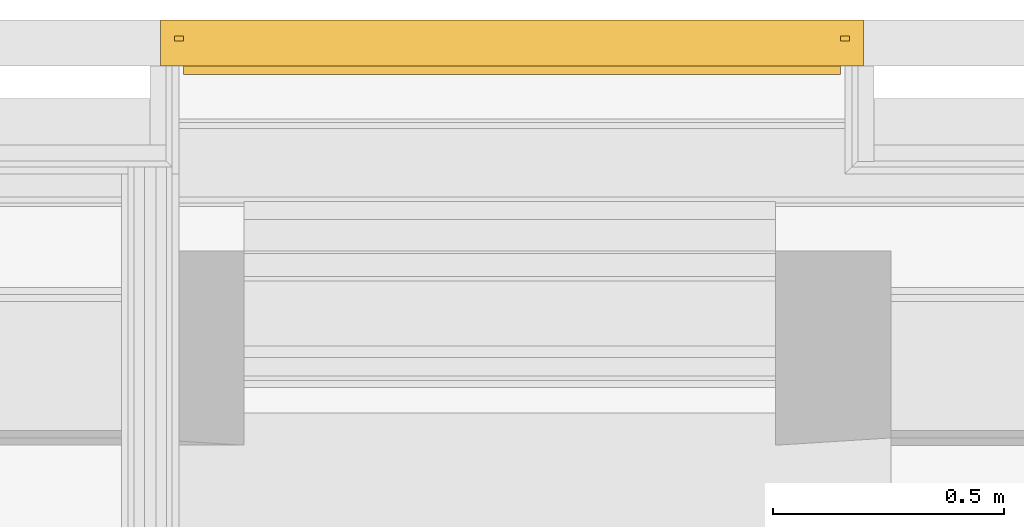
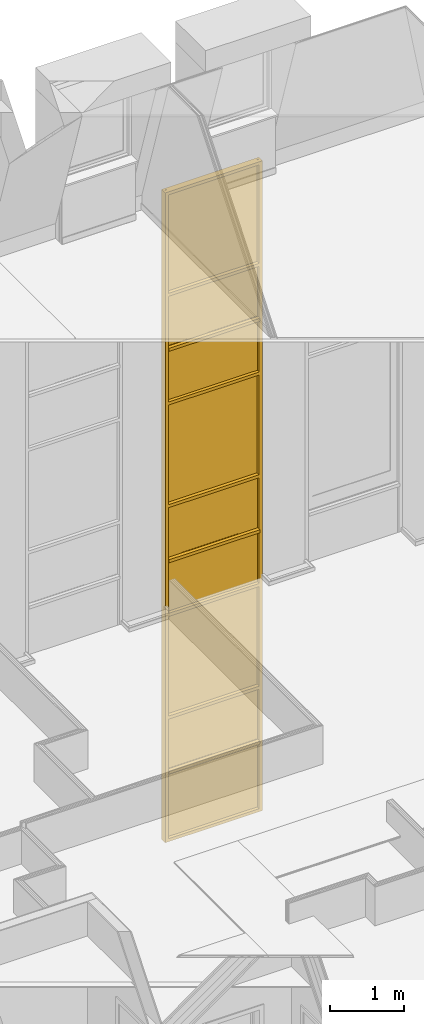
# One storey, part 139 of 169: 1 curtain wall.
"""IFC2X3 building model written with IfcOpenShell, lengths in metres."""

from ifc_helpers import new_model, entity, si_unit, converted_unit, derived_unit, money_unit, direction, frame, origin_with_axes, place, context, subcontext, project, spatial, faceted_brep, material, type_object, element, save


model = new_model("IFC2X3")

# Units and contexts
model_context = context("Model", 3, precision=1e-05, world=origin_with_axes(), true_north=direction((0.0, 1.0)))
body_context = subcontext(model_context, "Body", "Model", "MODEL_VIEW", scale=1.0)
ifc_project = project(units=[si_unit("LENGTHUNIT", "METRE"), si_unit("AREAUNIT", "SQUARE_METRE"), si_unit("VOLUMEUNIT", "CUBIC_METRE"), si_unit("ABSORBEDDOSEUNIT", "GRAY"), si_unit("AMOUNTOFSUBSTANCEUNIT", "MOLE"), si_unit("DOSEEQUIVALENTUNIT", "SIEVERT"), si_unit("ELECTRICCAPACITANCEUNIT", "FARAD"), si_unit("ELECTRICCHARGEUNIT", "COULOMB"), si_unit("ELECTRICCONDUCTANCEUNIT", "SIEMENS"), si_unit("ELECTRICCURRENTUNIT", "AMPERE"), si_unit("ELECTRICRESISTANCEUNIT", "OHM"), si_unit("ELECTRICVOLTAGEUNIT", "VOLT"), si_unit("ENERGYUNIT", "JOULE"), si_unit("FORCEUNIT", "NEWTON"), si_unit("FREQUENCYUNIT", "HERTZ"), si_unit("ILLUMINANCEUNIT", "LUX"), si_unit("INDUCTANCEUNIT", "HENRY"), si_unit("LUMINOUSFLUXUNIT", "LUMEN"), si_unit("LUMINOUSINTENSITYUNIT", "CANDELA"), si_unit("MAGNETICFLUXDENSITYUNIT", "TESLA"), si_unit("MAGNETICFLUXUNIT", "WEBER"), si_unit("MASSUNIT", "GRAM"), converted_unit("PLANEANGLEUNIT", "degree", entity("IfcReal", 0.0174532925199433), si_unit("PLANEANGLEUNIT", "RADIAN"), dimensions=[0, 0, 0, 0, 0, 0, 0]), si_unit("POWERUNIT", "WATT"), si_unit("PRESSUREUNIT", "PASCAL"), si_unit("RADIOACTIVITYUNIT", "BECQUEREL"), si_unit("SOLIDANGLEUNIT", "STERADIAN"), si_unit("THERMODYNAMICTEMPERATUREUNIT", "KELVIN"), si_unit("TIMEUNIT", "SECOND"), derived_unit("ACCELERATIONUNIT", [(si_unit("LENGTHUNIT", "METRE"), 1), (si_unit("TIMEUNIT", "SECOND"), -2)]), derived_unit("ANGULARVELOCITYUNIT", [(converted_unit("PLANEANGLEUNIT", "degree", entity("IfcReal", 0.0174532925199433), si_unit("PLANEANGLEUNIT", "RADIAN"), dimensions=[0, 0, 0, 0, 0, 0, 0]), 1), (si_unit("TIMEUNIT", "SECOND"), -1)]), derived_unit("CURVATUREUNIT", [(converted_unit("PLANEANGLEUNIT", "degree", entity("IfcReal", 0.0174532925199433), si_unit("PLANEANGLEUNIT", "RADIAN"), dimensions=[0, 0, 0, 0, 0, 0, 0]), 1), (si_unit("LENGTHUNIT", "METRE"), -1)]), derived_unit("DYNAMICVISCOSITYUNIT", [(si_unit("PRESSUREUNIT", "PASCAL"), 1), (si_unit("TIMEUNIT", "SECOND"), 1)]), derived_unit("HEATFLUXDENSITYUNIT", [(si_unit("POWERUNIT", "WATT"), 1), (si_unit("LENGTHUNIT", "METRE"), -2)]), derived_unit("HEATINGVALUEUNIT", [(si_unit("ENERGYUNIT", "JOULE"), 1), (si_unit("MASSUNIT", "GRAM"), -1)]), derived_unit("INTEGERCOUNTRATEUNIT", [(si_unit("TIMEUNIT", "SECOND"), -1)]), derived_unit("IONCONCENTRATIONUNIT", [(si_unit("MASSUNIT", "GRAM"), 1), (si_unit("VOLUMEUNIT", "CUBIC_METRE"), -1)]), derived_unit("ISOTHERMALMOISTURECAPACITYUNIT", [(si_unit("VOLUMEUNIT", "CUBIC_METRE"), 1), (si_unit("MASSUNIT", "GRAM"), -1)]), derived_unit("KINEMATICVISCOSITYUNIT", [(si_unit("AREAUNIT", "SQUARE_METRE"), 1), (si_unit("TIMEUNIT", "SECOND"), -1)]), derived_unit("LINEARFORCEUNIT", [(si_unit("FORCEUNIT", "NEWTON"), 1), (si_unit("LENGTHUNIT", "METRE"), -1)]), derived_unit("LINEARMOMENTUNIT", [(si_unit("FORCEUNIT", "NEWTON"), 1), (si_unit("LENGTHUNIT", "METRE"), -1)]), derived_unit("LINEARSTIFFNESSUNIT", [(si_unit("FORCEUNIT", "NEWTON"), 1), (si_unit("LENGTHUNIT", "METRE"), -1)]), derived_unit("LINEARVELOCITYUNIT", [(si_unit("LENGTHUNIT", "METRE"), 1), (si_unit("TIMEUNIT", "SECOND"), -1)]), derived_unit("LUMINOUSINTENSITYDISTRIBUTIONUNIT", [(si_unit("LUMINOUSINTENSITYUNIT", "CANDELA"), 1), (si_unit("LUMINOUSFLUXUNIT", "LUMEN"), -1)]), derived_unit("MASSDENSITYUNIT", [(si_unit("MASSUNIT", "GRAM"), 1), (si_unit("VOLUMEUNIT", "CUBIC_METRE"), -1)]), derived_unit("MASSFLOWRATEUNIT", [(si_unit("MASSUNIT", "GRAM"), 1), (si_unit("TIMEUNIT", "SECOND"), -1)]), derived_unit("MASSPERLENGTHUNIT", [(si_unit("MASSUNIT", "GRAM"), 1), (si_unit("LENGTHUNIT", "METRE"), -1)]), derived_unit("MODULUSOFELASTICITYUNIT", [(si_unit("FORCEUNIT", "NEWTON"), 1), (si_unit("AREAUNIT", "SQUARE_METRE"), -1)]), derived_unit("MODULUSOFLINEARSUBGRADEREACTIONUNIT", [(si_unit("FORCEUNIT", "NEWTON"), 1), (si_unit("LENGTHUNIT", "METRE"), -2)]), derived_unit("MODULUSOFROTATIONALSUBGRADEREACTIONUNIT", [(si_unit("FORCEUNIT", "NEWTON"), 1), (si_unit("LENGTHUNIT", "METRE"), 1)]), derived_unit("MODULUSOFSUBGRADEREACTIONUNIT", [(si_unit("FORCEUNIT", "NEWTON"), 1), (si_unit("VOLUMEUNIT", "CUBIC_METRE"), -1)]), derived_unit("MOISTUREDIFFUSIVITYUNIT", [(si_unit("VOLUMEUNIT", "CUBIC_METRE"), 1), (si_unit("TIMEUNIT", "SECOND"), -1)]), derived_unit("MOLECULARWEIGHTUNIT", [(si_unit("MASSUNIT", "GRAM"), 1), (si_unit("AMOUNTOFSUBSTANCEUNIT", "MOLE"), -1)]), derived_unit("PLANARFORCEUNIT", [(si_unit("FORCEUNIT", "NEWTON"), 1), (si_unit("LENGTHUNIT", "METRE"), -2)]), derived_unit("ROTATIONALFREQUENCYUNIT", [(si_unit("TIMEUNIT", "SECOND"), -1)]), derived_unit("ROTATIONALMASSUNIT", [(si_unit("MASSUNIT", "GRAM"), 1), (si_unit("LENGTHUNIT", "METRE"), 2)]), derived_unit("ROTATIONALSTIFFNESSUNIT", [(si_unit("FORCEUNIT", "NEWTON"), 1), (si_unit("LENGTHUNIT", "METRE"), 1), (converted_unit("PLANEANGLEUNIT", "degree", entity("IfcReal", 0.0174532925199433), si_unit("PLANEANGLEUNIT", "RADIAN"), dimensions=[0, 0, 0, 0, 0, 0, 0]), -1)]), derived_unit("SECTIONAREAINTEGRALUNIT", [(si_unit("LENGTHUNIT", "METRE"), 5)]), derived_unit("SECTIONMODULUSUNIT", [(si_unit("LENGTHUNIT", "METRE"), 3)]), derived_unit("SHEARMODULUSUNIT", [(si_unit("FORCEUNIT", "NEWTON"), 1), (si_unit("AREAUNIT", "SQUARE_METRE"), -1)]), derived_unit("SOUNDPOWERUNIT", [(si_unit("ENERGYUNIT", "JOULE"), 1), (si_unit("TIMEUNIT", "SECOND"), -1)]), derived_unit("SPECIFICHEATCAPACITYUNIT", [(si_unit("FORCEUNIT", "NEWTON"), 1), (si_unit("MASSUNIT", "GRAM"), -1), (si_unit("THERMODYNAMICTEMPERATUREUNIT", "KELVIN"), -1)]), derived_unit("TEMPERATUREGRADIENTUNIT", [(si_unit("THERMODYNAMICTEMPERATUREUNIT", "KELVIN"), 1), (si_unit("LENGTHUNIT", "METRE"), -1)]), derived_unit("THERMALADMITTANCEUNIT", [(si_unit("POWERUNIT", "WATT"), 1), (si_unit("AREAUNIT", "SQUARE_METRE"), -1), (si_unit("THERMODYNAMICTEMPERATUREUNIT", "KELVIN"), -1)]), derived_unit("THERMALCONDUCTANCEUNIT", [(si_unit("POWERUNIT", "WATT"), 1), (si_unit("LENGTHUNIT", "METRE"), -1), (si_unit("THERMODYNAMICTEMPERATUREUNIT", "KELVIN"), -1)]), derived_unit("THERMALEXPANSIONCOEFFICIENTUNIT", [(si_unit("THERMODYNAMICTEMPERATUREUNIT", "KELVIN"), -1)]), derived_unit("THERMALRESISTANCEUNIT", [(si_unit("AREAUNIT", "SQUARE_METRE"), 1), (si_unit("POWERUNIT", "WATT"), -1)]), derived_unit("THERMALTRANSMITTANCEUNIT", [(si_unit("POWERUNIT", "WATT"), 1), (si_unit("AREAUNIT", "SQUARE_METRE"), -1), (si_unit("THERMODYNAMICTEMPERATUREUNIT", "KELVIN"), -1)]), derived_unit("TORQUEUNIT", [(si_unit("FORCEUNIT", "NEWTON"), 1), (si_unit("LENGTHUNIT", "METRE"), 1)]), derived_unit("VAPORPERMEABILITYUNIT", [(si_unit("MASSUNIT", "GRAM"), 1), (si_unit("TIMEUNIT", "SECOND"), -1)]), derived_unit("VOLUMETRICFLOWRATEUNIT", [(si_unit("VOLUMEUNIT", "CUBIC_METRE"), 1), (si_unit("TIMEUNIT", "SECOND"), -1)]), derived_unit("WARPINGCONSTANTUNIT", [(si_unit("LENGTHUNIT", "METRE"), 6)]), derived_unit("WARPINGMOMENTUNIT", [(si_unit("FORCEUNIT", "NEWTON"), 1), (si_unit("LENGTHUNIT", "METRE"), 2)]), money_unit("GBP")], contexts=[model_context])

# Site, building, storey
site_placement = place(None, origin_with_axes())
site = spatial("IfcSite", under=ifc_project, at=site_placement, Name="Site", CompositionType="ELEMENT")
building_placement = place(site_placement, origin_with_axes())
building = spatial("IfcBuilding", under=site, at=building_placement, Name="Building01", CompositionType="ELEMENT")
storey_placement = place(building_placement, frame((0.0, 0.0, 5.15), z_axis=(0.0, 0.0, 1.0), x_axis=(1.0, 0.0, 0.0)))
storey = spatial("IfcBuildingStorey", under=building, at=storey_placement, Name="1F", CompositionType="ELEMENT", Elevation=5.15)

# Curtain wall
ifc_material = material(Name="A-CurtainWall_Frame")
curtain_wall_type = type_object("IfcCurtainWallType", Name="Pattern - Maximum Spacing", PredefinedType="NOTDEFINED")
curtain_wall_placement = place(storey_placement, frame((0.0, 0.0, -5.15), z_axis=(0.0, 0.0, 1.0), x_axis=(1.0, 0.0, 0.0)))
element("IfcCurtainWall", 1, at=curtain_wall_placement, inside=storey, type_object=curtain_wall_type, material=ifc_material, Name="02", ObjectType="Pattern - Maximum Spacing", context=body_context, shape_type="Brep", body=[
    faceted_brep([(24.09, 14.85, 5.118945), (24.09, 14.87, 5.118945), (22.63, 14.87, 5.118945), (22.63, 14.85, 5.118945), (24.09, 14.85, 4.0), (24.09, 14.87, 4.0), (22.63, 14.85, 4.0), (22.63, 14.87, 4.0)], [[[0, 1, 2, 3]], [[4, 5, 1, 0]], [[6, 7, 5, 4]], [[3, 2, 7, 6]], [[1, 5, 7, 2]], [[3, 6, 4, 0]]]),
    faceted_brep([(22.6, 14.9, 3.97), (22.65, 14.9, 3.97), (22.65, 14.865, 3.97), (22.63, 14.865, 3.97), (22.63, 14.855, 3.97), (22.65, 14.855, 3.97), (22.65, 14.8, 3.97), (22.6, 14.8, 3.97), (22.6, 14.8, 5.123945), (22.6, 14.9, 5.123945), (22.65, 14.9, 5.123945), (22.65, 14.865, 5.123945), (22.63, 14.865, 5.123945), (22.63, 14.855, 5.123945), (22.65, 14.855, 5.123945), (22.65, 14.8, 5.123945)], [[[0, 1, 2, 3, 4, 5, 6, 7]], [[7, 8, 9, 0]], [[0, 9, 10, 1]], [[1, 10, 11, 2]], [[2, 11, 12, 3]], [[3, 12, 13, 4]], [[4, 13, 14, 5]], [[5, 14, 15, 6]], [[6, 15, 8, 7]]]),
    faceted_brep([(24.07, 14.9, 4.02), (24.07, 14.865, 4.02), (24.07, 14.865, 4.0), (24.07, 14.855, 4.0), (24.07, 14.855, 4.02), (24.07, 14.8, 4.02), (24.07, 14.8, 3.97), (24.07, 14.9, 3.97), (22.65, 14.9, 3.97), (22.65, 14.9, 4.02), (22.65, 14.865, 4.02), (22.65, 14.865, 4.0), (22.65, 14.855, 4.0), (22.65, 14.855, 4.02), (22.65, 14.8, 4.02), (22.65, 14.8, 3.97)], [[[0, 1, 2, 3, 4, 5, 6, 7]], [[7, 8, 9, 0]], [[0, 9, 10, 1]], [[1, 10, 11, 2]], [[2, 11, 12, 3]], [[3, 12, 13, 4]], [[4, 13, 14, 5]], [[5, 14, 15, 6]], [[6, 15, 8, 7]], [[8, 15, 14, 13, 12, 11, 10, 9]]]),
    faceted_brep([(24.12, 14.9, 3.97), (24.12, 14.9, 5.123945), (24.12, 14.8, 5.123945), (24.12, 14.8, 3.97), (24.07, 14.9, 3.97), (24.07, 14.9, 5.123945), (24.07, 14.865, 3.97), (24.07, 14.865, 5.123945), (24.09, 14.865, 3.97), (24.09, 14.865, 5.123945), (24.09, 14.855, 3.97), (24.09, 14.855, 5.123945), (24.07, 14.855, 3.97), (24.07, 14.855, 5.123945), (24.07, 14.8, 3.97), (24.07, 14.8, 5.123945)], [[[0, 1, 2, 3]], [[4, 5, 1, 0]], [[6, 7, 5, 4]], [[8, 9, 7, 6]], [[10, 11, 9, 8]], [[12, 13, 11, 10]], [[14, 15, 13, 12]], [[3, 2, 15, 14]], [[14, 12, 10, 8, 6, 4, 0, 3]]]),
    faceted_brep([(22.65, 14.8375, 5.128945), (22.65, 14.8475, 5.128945), (22.65, 14.8475, 5.148945), (22.65, 14.8825, 5.148945), (22.65, 14.8825, 5.098945), (22.65, 14.8475, 5.098945), (22.65, 14.8475, 5.118945), (22.65, 14.8375, 5.118945), (22.65, 14.8375, 5.098945), (22.65, 14.7825, 5.098945), (22.65, 14.7825, 5.148945), (22.65, 14.8375, 5.148945), (24.07, 14.8375, 5.148945), (24.07, 14.8375, 5.128945), (24.07, 14.8475, 5.128945), (24.07, 14.8475, 5.148945), (24.07, 14.8825, 5.148945), (24.07, 14.8825, 5.098945), (24.07, 14.8475, 5.098945), (24.07, 14.8375, 5.118945), (24.07, 14.8375, 5.098945), (24.07, 14.8475, 5.118945), (24.07, 14.7825, 5.148945), (24.07, 14.7825, 5.098945)], [[[0, 1, 2, 3, 4, 5, 6, 7, 8, 9, 10, 11]], [[11, 12, 13, 0]], [[0, 13, 14, 1]], [[1, 14, 15, 2]], [[2, 15, 16, 3]], [[3, 16, 17, 4]], [[4, 17, 18, 5]], [[7, 19, 20, 8]], [[6, 21, 19, 7]], [[5, 18, 21, 6]], [[10, 22, 12, 11]], [[9, 23, 22, 10]], [[8, 20, 23, 9]], [[20, 19, 21, 18, 17, 16, 15, 14, 13, 12, 22, 23]]]),
    faceted_brep([(24.09, 14.85, 6.018105), (24.09, 14.87, 6.018105), (22.63, 14.87, 6.018105), (22.63, 14.85, 6.018105), (24.09, 14.85, 5.128945), (24.09, 14.87, 5.128945), (22.63, 14.85, 5.128945), (22.63, 14.87, 5.128945)], [[[0, 1, 2, 3]], [[4, 5, 1, 0]], [[6, 7, 5, 4]], [[3, 2, 7, 6]], [[1, 5, 7, 2]], [[3, 6, 4, 0]]]),
    faceted_brep([(22.65, 14.8, 6.023105), (22.65, 14.8, 5.123945), (22.65, 14.855, 5.123945), (22.65, 14.855, 6.023105), (22.6, 14.8, 6.023105), (22.6, 14.8, 5.123945), (22.6, 14.9, 6.023105), (22.6, 14.9, 5.123945), (22.65, 14.9, 6.023105), (22.65, 14.9, 5.123945), (22.65, 14.865, 6.023105), (22.65, 14.865, 5.123945), (22.63, 14.865, 6.023105), (22.63, 14.865, 5.123945), (22.63, 14.855, 6.023105), (22.63, 14.855, 5.123945)], [[[0, 1, 2, 3]], [[4, 5, 1, 0]], [[6, 7, 5, 4]], [[8, 9, 7, 6]], [[10, 11, 9, 8]], [[12, 13, 11, 10]], [[14, 15, 13, 12]], [[3, 2, 15, 14]]]),
    faceted_brep([(24.12, 14.9, 5.123945), (24.12, 14.9, 6.023105), (24.12, 14.8, 6.023105), (24.12, 14.8, 5.123945), (24.07, 14.9, 5.123945), (24.07, 14.9, 6.023105), (24.07, 14.865, 5.123945), (24.07, 14.865, 6.023105), (24.09, 14.865, 5.123945), (24.09, 14.865, 6.023105), (24.09, 14.855, 5.123945), (24.09, 14.855, 6.023105), (24.07, 14.855, 5.123945), (24.07, 14.855, 6.023105), (24.07, 14.8, 5.123945), (24.07, 14.8, 6.023105)], [[[0, 1, 2, 3]], [[4, 5, 1, 0]], [[6, 7, 5, 4]], [[8, 9, 7, 6]], [[10, 11, 9, 8]], [[12, 13, 11, 10]], [[14, 15, 13, 12]], [[3, 2, 15, 14]]]),
    faceted_brep([(22.65, 14.855, 6.028105), (22.65, 14.865, 6.028105), (22.65, 14.865, 6.048105), (22.65, 14.9, 6.048105), (22.65, 14.9, 5.998105), (22.65, 14.865, 5.998105), (22.65, 14.865, 6.018105), (22.65, 14.855, 6.018105), (22.65, 14.855, 5.998105), (22.65, 14.8, 5.998105), (22.65, 14.8, 6.048105), (22.65, 14.855, 6.048105), (24.07, 14.855, 6.048105), (24.07, 14.855, 6.028105), (24.07, 14.865, 6.028105), (24.07, 14.865, 6.048105), (24.07, 14.9, 6.048105), (24.07, 14.9, 5.998105), (24.07, 14.865, 5.998105), (24.07, 14.855, 6.018105), (24.07, 14.855, 5.998105), (24.07, 14.865, 6.018105), (24.07, 14.8, 6.048105), (24.07, 14.8, 5.998105)], [[[0, 1, 2, 3, 4, 5, 6, 7, 8, 9, 10, 11]], [[11, 12, 13, 0]], [[0, 13, 14, 1]], [[1, 14, 15, 2]], [[2, 15, 16, 3]], [[3, 16, 17, 4]], [[4, 17, 18, 5]], [[7, 19, 20, 8]], [[6, 21, 19, 7]], [[5, 18, 21, 6]], [[10, 22, 12, 11]], [[9, 23, 22, 10]], [[8, 20, 23, 9]], [[20, 19, 21, 18, 17, 16, 15, 14, 13, 12, 22, 23]]]),
    faceted_brep([(24.09, 14.855, 7.716517), (24.09, 14.865, 7.716517), (22.63, 14.865, 7.716517), (22.63, 14.855, 7.716517), (24.09, 14.855, 6.028105), (24.09, 14.865, 6.028105), (22.63, 14.855, 6.028105), (22.63, 14.865, 6.028105)], [[[0, 1, 2, 3]], [[4, 5, 1, 0]], [[6, 7, 5, 4]], [[3, 2, 7, 6]], [[1, 5, 7, 2]], [[3, 6, 4, 0]]]),
    faceted_brep([(22.65, 14.8, 7.721517), (22.65, 14.8, 6.023105), (22.65, 14.855, 6.023105), (22.65, 14.855, 7.721517), (22.6, 14.8, 7.721517), (22.6, 14.8, 6.023105), (22.6, 14.9, 7.721517), (22.6, 14.9, 6.023105), (22.65, 14.9, 7.721517), (22.65, 14.9, 6.023105), (22.65, 14.865, 7.721517), (22.65, 14.865, 6.023105), (22.63, 14.865, 7.721517), (22.63, 14.865, 6.023105), (22.63, 14.855, 7.721517), (22.63, 14.855, 6.023105)], [[[0, 1, 2, 3]], [[4, 5, 1, 0]], [[6, 7, 5, 4]], [[8, 9, 7, 6]], [[10, 11, 9, 8]], [[12, 13, 11, 10]], [[14, 15, 13, 12]], [[3, 2, 15, 14]]]),
    faceted_brep([(24.12, 14.9, 6.023105), (24.12, 14.9, 7.721517), (24.12, 14.8, 7.721517), (24.12, 14.8, 6.023105), (24.07, 14.9, 6.023105), (24.07, 14.9, 7.721517), (24.07, 14.865, 6.023105), (24.07, 14.865, 7.721517), (24.09, 14.865, 6.023105), (24.09, 14.865, 7.721517), (24.09, 14.855, 6.023105), (24.09, 14.855, 7.721517), (24.07, 14.855, 6.023105), (24.07, 14.855, 7.721517), (24.07, 14.8, 6.023105), (24.07, 14.8, 7.721517)], [[[0, 1, 2, 3]], [[4, 5, 1, 0]], [[6, 7, 5, 4]], [[8, 9, 7, 6]], [[10, 11, 9, 8]], [[12, 13, 11, 10]], [[14, 15, 13, 12]], [[3, 2, 15, 14]]]),
    faceted_brep([(22.65, 14.855, 7.726517), (22.65, 14.865, 7.726517), (22.65, 14.865, 7.746517), (22.65, 14.9, 7.746517), (22.65, 14.9, 7.696517), (22.65, 14.865, 7.696517), (22.65, 14.865, 7.716517), (22.65, 14.855, 7.716517), (22.65, 14.855, 7.696517), (22.65, 14.8, 7.696517), (22.65, 14.8, 7.746517), (22.65, 14.855, 7.746517), (24.07, 14.855, 7.746517), (24.07, 14.855, 7.726517), (24.07, 14.865, 7.726517), (24.07, 14.865, 7.746517), (24.07, 14.9, 7.746517), (24.07, 14.9, 7.696517), (24.07, 14.865, 7.696517), (24.07, 14.855, 7.716517), (24.07, 14.855, 7.696517), (24.07, 14.865, 7.716517), (24.07, 14.8, 7.746517), (24.07, 14.8, 7.696517)], [[[0, 1, 2, 3, 4, 5, 6, 7, 8, 9, 10, 11]], [[11, 12, 13, 0]], [[0, 13, 14, 1]], [[1, 14, 15, 2]], [[2, 15, 16, 3]], [[3, 16, 17, 4]], [[4, 17, 18, 5]], [[7, 19, 20, 8]], [[6, 21, 19, 7]], [[5, 18, 21, 6]], [[10, 22, 12, 11]], [[9, 23, 22, 10]], [[8, 20, 23, 9]], [[20, 19, 21, 18, 17, 16, 15, 14, 13, 12, 22, 23]]]),
    faceted_brep([(24.09, 14.85, 8.615677), (24.09, 14.87, 8.615677), (22.63, 14.87, 8.615677), (22.63, 14.85, 8.615677), (24.09, 14.85, 7.726517), (24.09, 14.87, 7.726517), (22.63, 14.85, 7.726517), (22.63, 14.87, 7.726517)], [[[0, 1, 2, 3]], [[4, 5, 1, 0]], [[6, 7, 5, 4]], [[3, 2, 7, 6]], [[1, 5, 7, 2]], [[3, 6, 4, 0]]]),
    faceted_brep([(22.65, 14.8, 8.620677), (22.65, 14.8, 7.721517), (22.65, 14.855, 7.721517), (22.65, 14.855, 8.620677), (22.6, 14.8, 8.620677), (22.6, 14.8, 7.721517), (22.6, 14.9, 8.620677), (22.6, 14.9, 7.721517), (22.65, 14.9, 8.620677), (22.65, 14.9, 7.721517), (22.65, 14.865, 8.620677), (22.65, 14.865, 7.721517), (22.63, 14.865, 8.620677), (22.63, 14.865, 7.721517), (22.63, 14.855, 8.620677), (22.63, 14.855, 7.721517)], [[[0, 1, 2, 3]], [[4, 5, 1, 0]], [[6, 7, 5, 4]], [[8, 9, 7, 6]], [[10, 11, 9, 8]], [[12, 13, 11, 10]], [[14, 15, 13, 12]], [[3, 2, 15, 14]]]),
    faceted_brep([(24.12, 14.9, 7.721517), (24.12, 14.9, 8.620677), (24.12, 14.8, 8.620677), (24.12, 14.8, 7.721517), (24.07, 14.9, 7.721517), (24.07, 14.9, 8.620677), (24.07, 14.865, 7.721517), (24.07, 14.865, 8.620677), (24.09, 14.865, 7.721517), (24.09, 14.865, 8.620677), (24.09, 14.855, 7.721517), (24.09, 14.855, 8.620677), (24.07, 14.855, 7.721517), (24.07, 14.855, 8.620677), (24.07, 14.8, 7.721517), (24.07, 14.8, 8.620677)], [[[0, 1, 2, 3]], [[4, 5, 1, 0]], [[6, 7, 5, 4]], [[8, 9, 7, 6]], [[10, 11, 9, 8]], [[12, 13, 11, 10]], [[14, 15, 13, 12]], [[3, 2, 15, 14]]]),
    faceted_brep([(22.65, 14.8375, 8.625677), (22.65, 14.8475, 8.625677), (22.65, 14.8475, 8.645677), (22.65, 14.8825, 8.645677), (22.65, 14.8825, 8.595677), (22.65, 14.8475, 8.595677), (22.65, 14.8475, 8.615677), (22.65, 14.8375, 8.615677), (22.65, 14.8375, 8.595677), (22.65, 14.7825, 8.595677), (22.65, 14.7825, 8.645677), (22.65, 14.8375, 8.645677), (24.07, 14.8375, 8.645677), (24.07, 14.8375, 8.625677), (24.07, 14.8475, 8.625677), (24.07, 14.8475, 8.645677), (24.07, 14.8825, 8.645677), (24.07, 14.8825, 8.595677), (24.07, 14.8475, 8.595677), (24.07, 14.8375, 8.615677), (24.07, 14.8375, 8.595677), (24.07, 14.8475, 8.615677), (24.07, 14.7825, 8.645677), (24.07, 14.7825, 8.595677)], [[[0, 1, 2, 3, 4, 5, 6, 7, 8, 9, 10, 11]], [[11, 12, 13, 0]], [[0, 13, 14, 1]], [[1, 14, 15, 2]], [[2, 15, 16, 3]], [[3, 16, 17, 4]], [[4, 17, 18, 5]], [[7, 19, 20, 8]], [[6, 21, 19, 7]], [[5, 18, 21, 6]], [[10, 22, 12, 11]], [[9, 23, 22, 10]], [[8, 20, 23, 9]], [[20, 19, 21, 18, 17, 16, 15, 14, 13, 12, 22, 23]]]),
    faceted_brep([(24.09, 14.85, 9.514837), (24.09, 14.87, 9.514837), (22.63, 14.87, 9.514837), (22.63, 14.85, 9.514837), (24.09, 14.85, 8.625677), (24.09, 14.87, 8.625677), (22.63, 14.85, 8.625677), (22.63, 14.87, 8.625677)], [[[0, 1, 2, 3]], [[4, 5, 1, 0]], [[6, 7, 5, 4]], [[3, 2, 7, 6]], [[1, 5, 7, 2]], [[3, 6, 4, 0]]]),
    faceted_brep([(22.65, 14.8, 9.519837), (22.65, 14.8, 8.620677), (22.65, 14.855, 8.620677), (22.65, 14.855, 9.519837), (22.6, 14.8, 9.519837), (22.6, 14.8, 8.620677), (22.6, 14.9, 9.519837), (22.6, 14.9, 8.620677), (22.65, 14.9, 9.519837), (22.65, 14.9, 8.620677), (22.65, 14.865, 9.519837), (22.65, 14.865, 8.620677), (22.63, 14.865, 9.519837), (22.63, 14.865, 8.620677), (22.63, 14.855, 9.519837), (22.63, 14.855, 8.620677)], [[[0, 1, 2, 3]], [[4, 5, 1, 0]], [[6, 7, 5, 4]], [[8, 9, 7, 6]], [[10, 11, 9, 8]], [[12, 13, 11, 10]], [[14, 15, 13, 12]], [[3, 2, 15, 14]]]),
    faceted_brep([(24.12, 14.9, 8.620677), (24.12, 14.9, 9.519837), (24.12, 14.8, 9.519837), (24.12, 14.8, 8.620677), (24.07, 14.9, 8.620677), (24.07, 14.9, 9.519837), (24.07, 14.865, 8.620677), (24.07, 14.865, 9.519837), (24.09, 14.865, 8.620677), (24.09, 14.865, 9.519837), (24.09, 14.855, 8.620677), (24.09, 14.855, 9.519837), (24.07, 14.855, 8.620677), (24.07, 14.855, 9.519837), (24.07, 14.8, 8.620677), (24.07, 14.8, 9.519837)], [[[0, 1, 2, 3]], [[4, 5, 1, 0]], [[6, 7, 5, 4]], [[8, 9, 7, 6]], [[10, 11, 9, 8]], [[12, 13, 11, 10]], [[14, 15, 13, 12]], [[3, 2, 15, 14]]]),
    faceted_brep([(22.65, 14.855, 9.524837), (22.65, 14.865, 9.524837), (22.65, 14.865, 9.544837), (22.65, 14.9, 9.544837), (22.65, 14.9, 9.494837), (22.65, 14.865, 9.494837), (22.65, 14.865, 9.514837), (22.65, 14.855, 9.514837), (22.65, 14.855, 9.494837), (22.65, 14.8, 9.494837), (22.65, 14.8, 9.544837), (22.65, 14.855, 9.544837), (24.07, 14.855, 9.544837), (24.07, 14.855, 9.524837), (24.07, 14.865, 9.524837), (24.07, 14.865, 9.544837), (24.07, 14.9, 9.544837), (24.07, 14.9, 9.494837), (24.07, 14.865, 9.494837), (24.07, 14.855, 9.514837), (24.07, 14.855, 9.494837), (24.07, 14.865, 9.514837), (24.07, 14.8, 9.544837), (24.07, 14.8, 9.494837)], [[[0, 1, 2, 3, 4, 5, 6, 7, 8, 9, 10, 11]], [[11, 12, 13, 0]], [[0, 13, 14, 1]], [[1, 14, 15, 2]], [[2, 15, 16, 3]], [[3, 16, 17, 4]], [[4, 17, 18, 5]], [[7, 19, 20, 8]], [[6, 21, 19, 7]], [[5, 18, 21, 6]], [[10, 22, 12, 11]], [[9, 23, 22, 10]], [[8, 20, 23, 9]], [[20, 19, 21, 18, 17, 16, 15, 14, 13, 12, 22, 23]]]),
    faceted_brep([(24.09, 14.855, 11.213249), (24.09, 14.865, 11.213249), (22.63, 14.865, 11.213249), (22.63, 14.855, 11.213249), (24.09, 14.855, 9.524837), (24.09, 14.865, 9.524837), (22.63, 14.855, 9.524837), (22.63, 14.865, 9.524837)], [[[0, 1, 2, 3]], [[4, 5, 1, 0]], [[6, 7, 5, 4]], [[3, 2, 7, 6]], [[1, 5, 7, 2]], [[3, 6, 4, 0]]]),
    faceted_brep([(22.65, 14.8, 11.218249), (22.65, 14.8, 9.519837), (22.65, 14.855, 9.519837), (22.65, 14.855, 11.218249), (22.6, 14.8, 11.218249), (22.6, 14.8, 9.519837), (22.6, 14.9, 11.218249), (22.6, 14.9, 9.519837), (22.65, 14.9, 11.218249), (22.65, 14.9, 9.519837), (22.65, 14.865, 11.218249), (22.65, 14.865, 9.519837), (22.63, 14.865, 11.218249), (22.63, 14.865, 9.519837), (22.63, 14.855, 11.218249), (22.63, 14.855, 9.519837)], [[[0, 1, 2, 3]], [[4, 5, 1, 0]], [[6, 7, 5, 4]], [[8, 9, 7, 6]], [[10, 11, 9, 8]], [[12, 13, 11, 10]], [[14, 15, 13, 12]], [[3, 2, 15, 14]]]),
    faceted_brep([(24.12, 14.9, 9.519837), (24.12, 14.9, 11.218249), (24.12, 14.8, 11.218249), (24.12, 14.8, 9.519837), (24.07, 14.9, 9.519837), (24.07, 14.9, 11.218249), (24.07, 14.865, 9.519837), (24.07, 14.865, 11.218249), (24.09, 14.865, 9.519837), (24.09, 14.865, 11.218249), (24.09, 14.855, 9.519837), (24.09, 14.855, 11.218249), (24.07, 14.855, 9.519837), (24.07, 14.855, 11.218249), (24.07, 14.8, 9.519837), (24.07, 14.8, 11.218249)], [[[0, 1, 2, 3]], [[4, 5, 1, 0]], [[6, 7, 5, 4]], [[8, 9, 7, 6]], [[10, 11, 9, 8]], [[12, 13, 11, 10]], [[14, 15, 13, 12]], [[3, 2, 15, 14]]]),
    faceted_brep([(22.65, 14.855, 11.223249), (22.65, 14.865, 11.223249), (22.65, 14.865, 11.243249), (22.65, 14.9, 11.243249), (22.65, 14.9, 11.193249), (22.65, 14.865, 11.193249), (22.65, 14.865, 11.213249), (22.65, 14.855, 11.213249), (22.65, 14.855, 11.193249), (22.65, 14.8, 11.193249), (22.65, 14.8, 11.243249), (22.65, 14.855, 11.243249), (24.07, 14.855, 11.243249), (24.07, 14.855, 11.223249), (24.07, 14.865, 11.223249), (24.07, 14.865, 11.243249), (24.07, 14.9, 11.243249), (24.07, 14.9, 11.193249), (24.07, 14.865, 11.193249), (24.07, 14.855, 11.213249), (24.07, 14.855, 11.193249), (24.07, 14.865, 11.213249), (24.07, 14.8, 11.243249), (24.07, 14.8, 11.193249)], [[[0, 1, 2, 3, 4, 5, 6, 7, 8, 9, 10, 11]], [[11, 12, 13, 0]], [[0, 13, 14, 1]], [[1, 14, 15, 2]], [[2, 15, 16, 3]], [[3, 16, 17, 4]], [[4, 17, 18, 5]], [[7, 19, 20, 8]], [[6, 21, 19, 7]], [[5, 18, 21, 6]], [[10, 22, 12, 11]], [[9, 23, 22, 10]], [[8, 20, 23, 9]], [[20, 19, 21, 18, 17, 16, 15, 14, 13, 12, 22, 23]]]),
    faceted_brep([(24.09, 14.85, 12.112409), (24.09, 14.87, 12.112409), (22.63, 14.87, 12.112409), (22.63, 14.85, 12.112409), (24.09, 14.85, 11.223249), (24.09, 14.87, 11.223249), (22.63, 14.85, 11.223249), (22.63, 14.87, 11.223249)], [[[0, 1, 2, 3]], [[4, 5, 1, 0]], [[6, 7, 5, 4]], [[3, 2, 7, 6]], [[1, 5, 7, 2]], [[3, 6, 4, 0]]]),
    faceted_brep([(22.65, 14.8, 12.117409), (22.65, 14.8, 11.218249), (22.65, 14.855, 11.218249), (22.65, 14.855, 12.117409), (22.6, 14.8, 12.117409), (22.6, 14.8, 11.218249), (22.6, 14.9, 12.117409), (22.6, 14.9, 11.218249), (22.65, 14.9, 12.117409), (22.65, 14.9, 11.218249), (22.65, 14.865, 12.117409), (22.65, 14.865, 11.218249), (22.63, 14.865, 12.117409), (22.63, 14.865, 11.218249), (22.63, 14.855, 12.117409), (22.63, 14.855, 11.218249)], [[[0, 1, 2, 3]], [[4, 5, 1, 0]], [[6, 7, 5, 4]], [[8, 9, 7, 6]], [[10, 11, 9, 8]], [[12, 13, 11, 10]], [[14, 15, 13, 12]], [[3, 2, 15, 14]]]),
    faceted_brep([(24.12, 14.9, 11.218249), (24.12, 14.9, 12.117409), (24.12, 14.8, 12.117409), (24.12, 14.8, 11.218249), (24.07, 14.9, 11.218249), (24.07, 14.9, 12.117409), (24.07, 14.865, 11.218249), (24.07, 14.865, 12.117409), (24.09, 14.865, 11.218249), (24.09, 14.865, 12.117409), (24.09, 14.855, 11.218249), (24.09, 14.855, 12.117409), (24.07, 14.855, 11.218249), (24.07, 14.855, 12.117409), (24.07, 14.8, 11.218249), (24.07, 14.8, 12.117409)], [[[0, 1, 2, 3]], [[4, 5, 1, 0]], [[6, 7, 5, 4]], [[8, 9, 7, 6]], [[10, 11, 9, 8]], [[12, 13, 11, 10]], [[14, 15, 13, 12]], [[3, 2, 15, 14]]]),
    faceted_brep([(22.65, 14.8375, 12.122409), (22.65, 14.8475, 12.122409), (22.65, 14.8475, 12.142409), (22.65, 14.8825, 12.142409), (22.65, 14.8825, 12.092409), (22.65, 14.8475, 12.092409), (22.65, 14.8475, 12.112409), (22.65, 14.8375, 12.112409), (22.65, 14.8375, 12.092409), (22.65, 14.7825, 12.092409), (22.65, 14.7825, 12.142409), (22.65, 14.8375, 12.142409), (24.07, 14.8375, 12.142409), (24.07, 14.8375, 12.122409), (24.07, 14.8475, 12.122409), (24.07, 14.8475, 12.142409), (24.07, 14.8825, 12.142409), (24.07, 14.8825, 12.092409), (24.07, 14.8475, 12.092409), (24.07, 14.8375, 12.112409), (24.07, 14.8375, 12.092409), (24.07, 14.8475, 12.112409), (24.07, 14.7825, 12.142409), (24.07, 14.7825, 12.092409)], [[[0, 1, 2, 3, 4, 5, 6, 7, 8, 9, 10, 11]], [[11, 12, 13, 0]], [[0, 13, 14, 1]], [[1, 14, 15, 2]], [[2, 15, 16, 3]], [[3, 16, 17, 4]], [[4, 17, 18, 5]], [[7, 19, 20, 8]], [[6, 21, 19, 7]], [[5, 18, 21, 6]], [[10, 22, 12, 11]], [[9, 23, 22, 10]], [[8, 20, 23, 9]], [[20, 19, 21, 18, 17, 16, 15, 14, 13, 12, 22, 23]]]),
    faceted_brep([(22.63, 14.855, 13.021569), (22.63, 14.865, 13.021569), (24.09, 14.865, 13.021569), (24.09, 14.855, 13.021569), (22.63, 14.855, 14.69), (22.63, 14.865, 14.69), (24.09, 14.855, 14.69), (24.09, 14.865, 14.69)], [[[0, 1, 2, 3]], [[4, 5, 1, 0]], [[6, 7, 5, 4]], [[3, 2, 7, 6]], [[1, 5, 7, 2]], [[3, 6, 4, 0]]]),
    faceted_brep([(24.12, 14.9, 14.72), (24.07, 14.9, 14.72), (24.07, 14.865, 14.72), (24.09, 14.865, 14.72), (24.09, 14.855, 14.72), (24.07, 14.855, 14.72), (24.07, 14.8, 14.72), (24.12, 14.8, 14.72), (24.12, 14.8, 13.016569), (24.12, 14.9, 13.016569), (24.07, 14.9, 13.016569), (24.07, 14.865, 13.016569), (24.09, 14.865, 13.016569), (24.09, 14.855, 13.016569), (24.07, 14.855, 13.016569), (24.07, 14.8, 13.016569)], [[[0, 1, 2, 3, 4, 5, 6, 7]], [[7, 8, 9, 0]], [[0, 9, 10, 1]], [[1, 10, 11, 2]], [[2, 11, 12, 3]], [[3, 12, 13, 4]], [[4, 13, 14, 5]], [[5, 14, 15, 6]], [[6, 15, 8, 7]]]),
    faceted_brep([(22.65, 14.865, 14.69), (22.65, 14.855, 14.69), (22.65, 14.855, 14.67), (22.65, 14.8, 14.67), (22.65, 14.8, 14.72), (22.65, 14.9, 14.72), (22.65, 14.9, 14.67), (22.65, 14.865, 14.67), (24.07, 14.865, 14.67), (24.07, 14.865, 14.69), (24.07, 14.855, 14.69), (24.07, 14.855, 14.67), (24.07, 14.8, 14.67), (24.07, 14.8, 14.72), (24.07, 14.9, 14.72), (24.07, 14.9, 14.67)], [[[0, 1, 2, 3, 4, 5, 6, 7]], [[7, 8, 9, 0]], [[0, 9, 10, 1]], [[1, 10, 11, 2]], [[2, 11, 12, 3]], [[3, 12, 13, 4]], [[4, 13, 14, 5]], [[5, 14, 15, 6]], [[6, 15, 8, 7]], [[8, 15, 14, 13, 12, 11, 10, 9]]]),
    faceted_brep([(22.6, 14.9, 14.72), (22.6, 14.9, 13.016569), (22.6, 14.8, 13.016569), (22.6, 14.8, 14.72), (22.65, 14.9, 14.72), (22.65, 14.9, 13.016569), (22.65, 14.865, 14.72), (22.65, 14.865, 13.016569), (22.63, 14.865, 14.72), (22.63, 14.865, 13.016569), (22.63, 14.855, 14.72), (22.63, 14.855, 13.016569), (22.65, 14.855, 14.72), (22.65, 14.855, 13.016569), (22.65, 14.8, 14.72), (22.65, 14.8, 13.016569)], [[[0, 1, 2, 3]], [[4, 5, 1, 0]], [[6, 7, 5, 4]], [[8, 9, 7, 6]], [[10, 11, 9, 8]], [[12, 13, 11, 10]], [[14, 15, 13, 12]], [[3, 2, 15, 14]], [[14, 12, 10, 8, 6, 4, 0, 3]]]),
    faceted_brep([(24.07, 14.865, 13.021569), (24.07, 14.855, 13.021569), (24.07, 14.855, 13.041569), (24.07, 14.8, 13.041569), (24.07, 14.8, 12.991569), (24.07, 14.855, 12.991569), (24.07, 14.855, 13.011569), (24.07, 14.865, 13.011569), (24.07, 14.865, 12.991569), (24.07, 14.9, 12.991569), (24.07, 14.9, 13.041569), (24.07, 14.865, 13.041569), (22.65, 14.865, 13.041569), (22.65, 14.865, 13.021569), (22.65, 14.855, 13.021569), (22.65, 14.855, 13.041569), (22.65, 14.8, 13.041569), (22.65, 14.8, 12.991569), (22.65, 14.855, 12.991569), (22.65, 14.865, 13.011569), (22.65, 14.865, 12.991569), (22.65, 14.855, 13.011569), (22.65, 14.9, 13.041569), (22.65, 14.9, 12.991569)], [[[0, 1, 2, 3, 4, 5, 6, 7, 8, 9, 10, 11]], [[11, 12, 13, 0]], [[0, 13, 14, 1]], [[1, 14, 15, 2]], [[2, 15, 16, 3]], [[3, 16, 17, 4]], [[4, 17, 18, 5]], [[7, 19, 20, 8]], [[6, 21, 19, 7]], [[5, 18, 21, 6]], [[10, 22, 12, 11]], [[9, 23, 22, 10]], [[8, 20, 23, 9]], [[20, 19, 21, 18, 17, 16, 15, 14, 13, 12, 22, 23]]]),
    faceted_brep([(24.09, 14.85, 13.011569), (24.09, 14.87, 13.011569), (22.63, 14.87, 13.011569), (22.63, 14.85, 13.011569), (24.09, 14.85, 12.122409), (24.09, 14.87, 12.122409), (22.63, 14.85, 12.122409), (22.63, 14.87, 12.122409)], [[[0, 1, 2, 3]], [[4, 5, 1, 0]], [[6, 7, 5, 4]], [[3, 2, 7, 6]], [[1, 5, 7, 2]], [[3, 6, 4, 0]]]),
    faceted_brep([(22.65, 14.8, 13.016569), (22.65, 14.8, 12.117409), (22.65, 14.855, 12.117409), (22.65, 14.855, 13.016569), (22.6, 14.8, 13.016569), (22.6, 14.8, 12.117409), (22.6, 14.9, 13.016569), (22.6, 14.9, 12.117409), (22.65, 14.9, 13.016569), (22.65, 14.9, 12.117409), (22.65, 14.865, 13.016569), (22.65, 14.865, 12.117409), (22.63, 14.865, 13.016569), (22.63, 14.865, 12.117409), (22.63, 14.855, 13.016569), (22.63, 14.855, 12.117409)], [[[0, 1, 2, 3]], [[4, 5, 1, 0]], [[6, 7, 5, 4]], [[8, 9, 7, 6]], [[10, 11, 9, 8]], [[12, 13, 11, 10]], [[14, 15, 13, 12]], [[3, 2, 15, 14]]]),
    faceted_brep([(24.12, 14.9, 12.117409), (24.12, 14.9, 13.016569), (24.12, 14.8, 13.016569), (24.12, 14.8, 12.117409), (24.07, 14.9, 12.117409), (24.07, 14.9, 13.016569), (24.07, 14.865, 12.117409), (24.07, 14.865, 13.016569), (24.09, 14.865, 12.117409), (24.09, 14.865, 13.016569), (24.09, 14.855, 12.117409), (24.09, 14.855, 13.016569), (24.07, 14.855, 12.117409), (24.07, 14.855, 13.016569), (24.07, 14.8, 12.117409), (24.07, 14.8, 13.016569)], [[[0, 1, 2, 3]], [[4, 5, 1, 0]], [[6, 7, 5, 4]], [[8, 9, 7, 6]], [[10, 11, 9, 8]], [[12, 13, 11, 10]], [[14, 15, 13, 12]], [[3, 2, 15, 14]]]),
])

save(model, "model.ifc")
